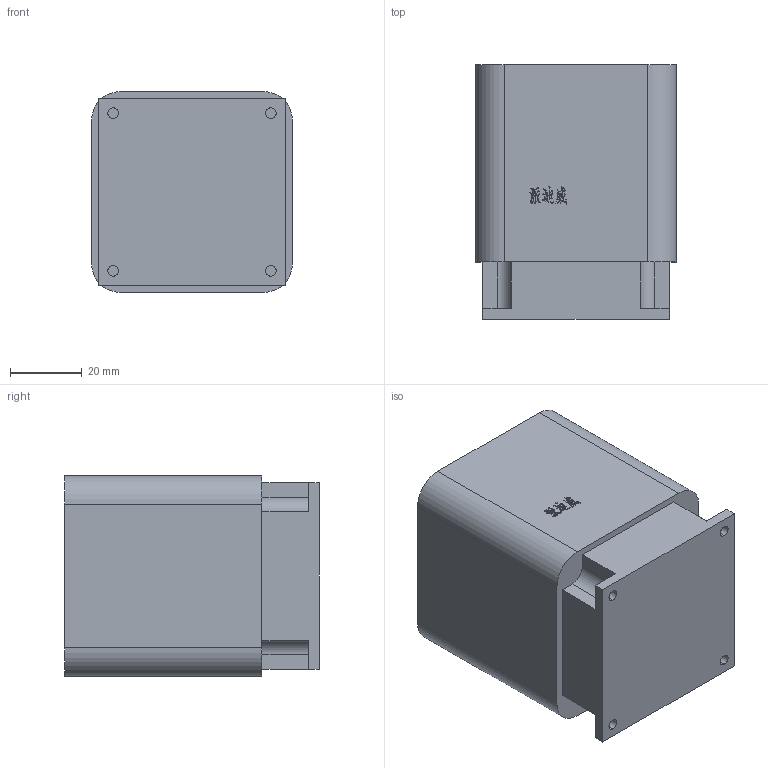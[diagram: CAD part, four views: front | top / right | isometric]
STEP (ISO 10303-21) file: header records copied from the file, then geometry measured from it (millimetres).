
FILE_DESCRIPTION (( 'STEP AP214' ), '1' );
FILE_NAME ('PT56-30.STEP', '2022-09-18T07:48:45', ( '' ), ( '' ), 'SwSTEP 2.0', 'SolidWorks 2017', '' );
FILE_SCHEMA (( 'AUTOMOTIVE_DESIGN' ));
Length unit declared in the file: millimetre
Products named in the file (1): PT56-30
Bounding box: 56 x 71 x 56 mm (x, y, z)
Volume: 209095.1 mm3; surface area: 22174.4 mm2
Topology: 1 solids, 1 shells, 400 faces, 1125 edges, 730 vertices
Faces by surface type: plane 252, bspline 84, cylinder 40, cone 24
Entity records: 16431 total; most frequent: CARTESIAN_POINT 6428, ORIENTED_EDGE 2202, DIRECTION 1647, EDGE_CURVE 1101, VECTOR 853, LINE 853, VERTEX_POINT 730, EDGE_LOOP 435
